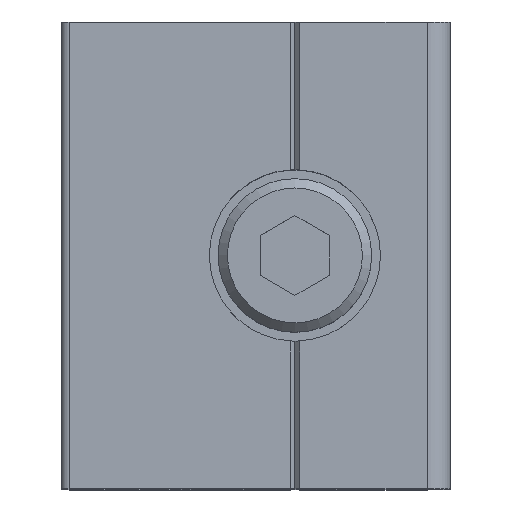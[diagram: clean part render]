
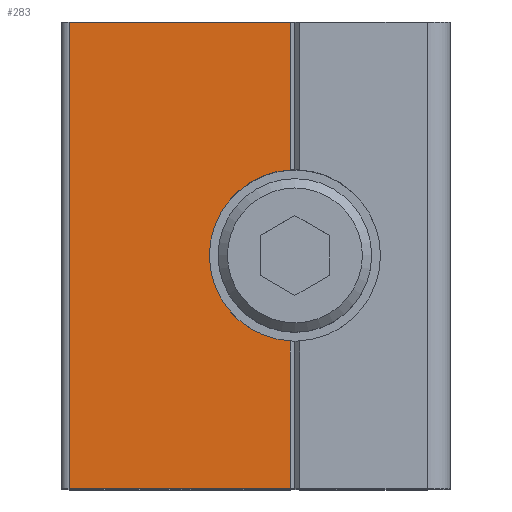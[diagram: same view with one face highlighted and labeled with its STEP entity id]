
A CAD part, top view. The second image highlights one B-rep face of the part: STEP entity #283.
In plain terms, the highlighted planar face has unit normal (0, 0, 1).
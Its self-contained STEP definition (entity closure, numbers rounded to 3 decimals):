
#283=ADVANCED_FACE('',(#545),#546,.F.);
#545=FACE_OUTER_BOUND('',#803,.T.);
#546=PLANE('',#804);
#803=EDGE_LOOP('',(#1384,#1385,#1386,#1387,#1388,#1389));
#804=AXIS2_PLACEMENT_3D('',#1390,#1391,#1392);
#1384=ORIENTED_EDGE('',*,*,#1633,.F.);
#1385=ORIENTED_EDGE('',*,*,#1845,.T.);
#1386=ORIENTED_EDGE('',*,*,#1709,.T.);
#1387=ORIENTED_EDGE('',*,*,#1839,.F.);
#1388=ORIENTED_EDGE('',*,*,#1822,.F.);
#1389=ORIENTED_EDGE('',*,*,#1629,.T.);
#1390=CARTESIAN_POINT('',(6.7,30.,20.0));
#1391=DIRECTION('',(0.0,0.0,-1.0));
#1392=DIRECTION('',(0.0,-1.0,0.0));
#1629=EDGE_CURVE('',#1923,#1932,#1934,.T.);
#1633=EDGE_CURVE('',#1938,#1932,#1940,.T.);
#1709=EDGE_CURVE('',#2073,#2070,#2074,.T.);
#1822=EDGE_CURVE('',#1923,#2236,#2237,.T.);
#1839=EDGE_CURVE('',#2236,#2070,#2259,.T.);
#1845=EDGE_CURVE('',#1938,#2073,#2266,.T.);
#1923=VERTEX_POINT('',#2361);
#1932=VERTEX_POINT('',#2370);
#1934=CIRCLE('',#2372,5.5);
#1938=VERTEX_POINT('',#2377);
#1940=LINE('',#2380,#2381);
#2070=VERTEX_POINT('',#2545);
#2073=VERTEX_POINT('',#2548);
#2074=LINE('',#2549,#2550);
#2236=VERTEX_POINT('',#2775);
#2237=LINE('',#2776,#2777);
#2259=LINE('',#2807,#2808);
#2266=LINE('',#2816,#2817);
#2361=CARTESIAN_POINT('',(6.7,9.508,20.0));
#2370=CARTESIAN_POINT('',(6.7,20.492,20.0));
#2372=AXIS2_PLACEMENT_3D('',#2912,#2913,#2914);
#2377=CARTESIAN_POINT('',(6.7,30.,20.0));
#2380=CARTESIAN_POINT('',(6.7,30.,20.0));
#2381=VECTOR('',#2917,1.0);
#2545=CARTESIAN_POINT('',(-7.5,0.,20.0));
#2548=CARTESIAN_POINT('',(-7.5,30.,20.0));
#2549=CARTESIAN_POINT('',(-7.5,30.,20.0));
#2550=VECTOR('',#3039,1.0);
#2775=CARTESIAN_POINT('',(6.7,0.,20.0));
#2776=CARTESIAN_POINT('',(6.7,30.,20.0));
#2777=VECTOR('',#3157,1.0);
#2807=CARTESIAN_POINT('',(6.7,0.,20.0));
#2808=VECTOR('',#3175,1.0);
#2816=CARTESIAN_POINT('',(6.7,30.,20.0));
#2817=VECTOR('',#3186,1.0);
#2912=CARTESIAN_POINT('',(7.,15.,20.0));
#2913=DIRECTION('',(0.0,0.,-1.0));
#2914=DIRECTION('',(0.0,-1.0,0.));
#2917=DIRECTION('',(0.0,-1.0,0.0));
#3039=DIRECTION('',(0.0,-1.0,0.0));
#3157=DIRECTION('',(0.0,-1.0,0.0));
#3175=DIRECTION('',(-1.0,0.0,0.0));
#3186=DIRECTION('',(-1.0,0.0,0.0));
